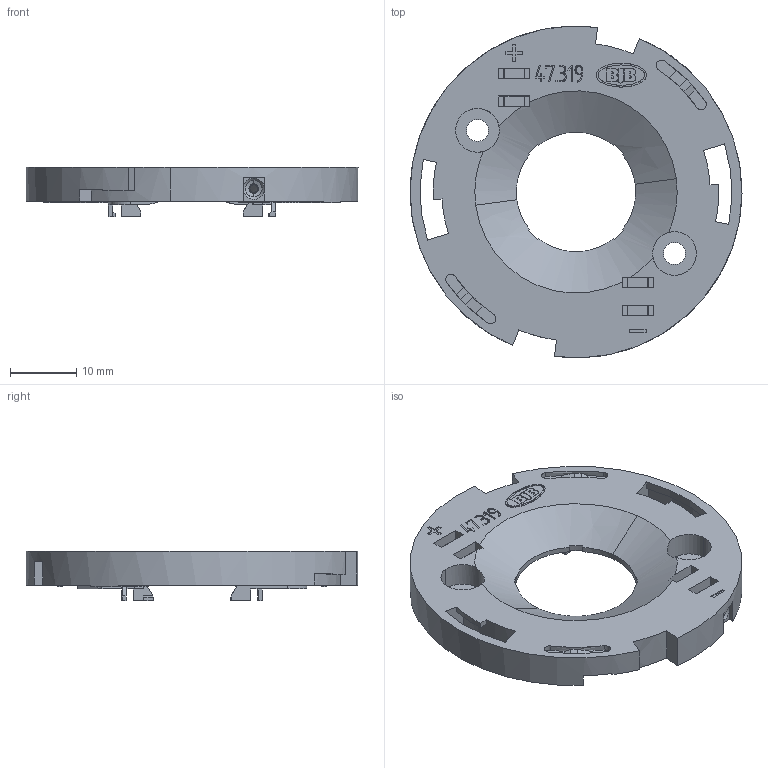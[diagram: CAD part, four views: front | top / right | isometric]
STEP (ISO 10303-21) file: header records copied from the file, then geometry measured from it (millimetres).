
FILE_DESCRIPTION((' '),'1');
FILE_NAME('01TYA59Y05.stp','2015-05-18 T13:51:07',(''),(''),'STEP Interface 2013.192 by CT CoreTechnologie','3D_Evolution2013.192 by CT CoreTechnologie','');
FILE_SCHEMA(('AP203_CONFIGURATION_CONTROLLED_3D_DESIGN_OF_MECHANICAL_PARTS_AND_ASSEMBLIES_MIM_LF'));
Length unit declared in the file: millimetre
Products named in the file (3): 01TYA59Y05; 01TYA59Y05-1; 01TYA59Y05-2
Assembly tree (3 placements, depth 2):
  01TYA59Y05
    01TYA59Y05-1  x2
    01TYA59Y05-2
Bounding box: 50 x 49.99 x 7.5 mm (x, y, z)
Volume: 4076.6 mm3; surface area: 7499.3 mm2
Topology: 3 solids, 3 shells, 698 faces, 1972 edges, 1308 vertices
Faces by surface type: plane 522, cylinder 132, bspline 44
Entity records: 26838 total; most frequent: CARTESIAN_POINT 4645, ORIENTED_EDGE 3654, DIRECTION 3400, EDGE_CURVE 1827, VECTOR 1390, LINE 1390, VERTEX_POINT 1212, AXIS2_PLACEMENT_3D 1005
